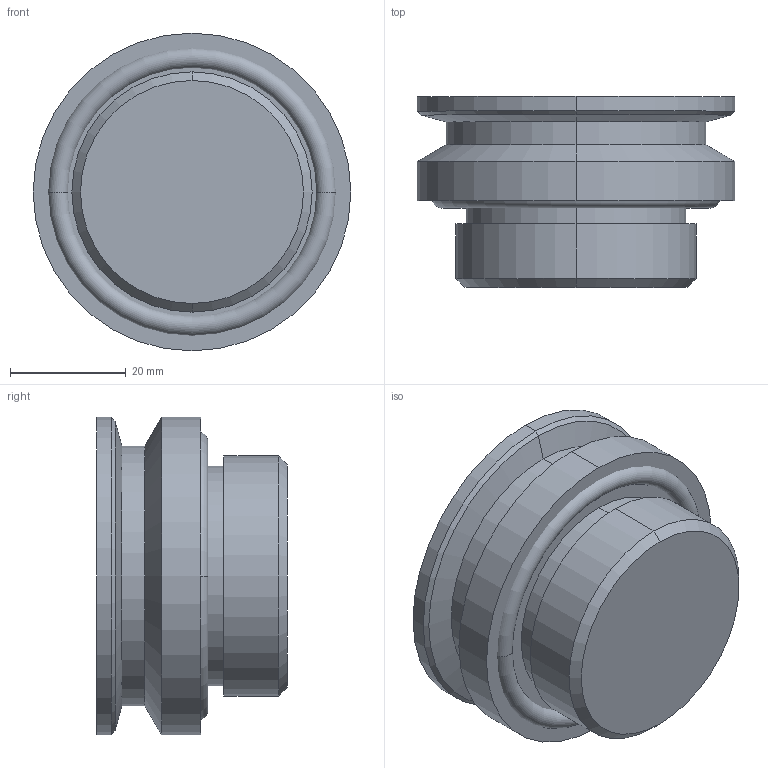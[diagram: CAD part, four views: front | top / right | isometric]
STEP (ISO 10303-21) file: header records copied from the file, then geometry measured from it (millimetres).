
FILE_DESCRIPTION((''),'2;1');
FILE_NAME('71118123_D3','2012-04-23T',('LVVCSAVA'),('Copyright by Leybold GmbH'),'PRO/ENGINEER BY PARAMETRIC TECHNOLOGY CORPORATION, 2010430','PRO/ENGINEER BY PARAMETRIC TECHNOLOGY CORPORATION, 2010430','');
FILE_SCHEMA(('AUTOMOTIVE_DESIGN { 1 0 10303 214 1 1 1 1 }'));
Length unit declared in the file: millimetre
Products named in the file (1): 71118123_D3
Bounding box: 55 x 33 x 55 mm (x, y, z)
Surface area: 14007.5 mm2 (no closed solid volume)
Topology: 0 solids, 4 shells, 24 faces, 48 edges, 28 vertices
Faces by surface type: cylinder 10, cone 8, plane 4, torus 2
Entity records: 667 total; most frequent: DIRECTION 126, CARTESIAN_POINT 100, ORIENTED_EDGE 88, AXIS2_PLACEMENT_3D 54, EDGE_CURVE 48, CIRCLE 30, VERTEX_POINT 28, EDGE_LOOP 24
